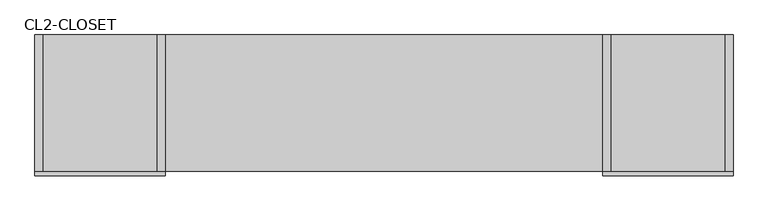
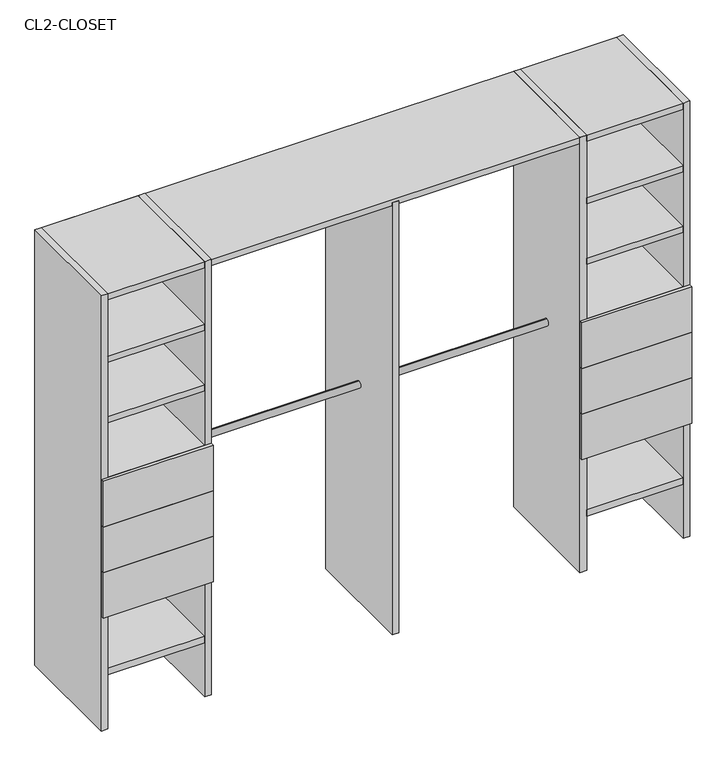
"""IFC4 building model written with IfcOpenShell, lengths in millimetres: furniture geometry, Closet 2estantes-2tubos-centro_sin lateral : CL2-CLOSET."""

from ifc_helpers import new_model, si_unit, point, frame, frame_2d, origin, origin_with_axes, place, context, project, spatial, polyline, circle_curve, trimmed, segment, composite_curve, outline, extrude, source, transform, mapped, element, save


def cl2_closet_fc385fcd(model_context):
    return source(origin(), model_context, "Body", "SweptSolid", [
        extrude(outline(polyline([(-1841.3752666, 100.0), (-1870.0, 100.0), (-1870.0, 600.0), (-1841.3752666, 600.0), (-1841.3752666, 100.0)])), origin_with_axes(), (0.0, 0.0, 1.0), 2000.0),
        extrude(outline(polyline([(-1025.6876333, 100.0), (-1054.3123667, 100.0), (-1054.3123667, 600.0), (-1025.6876333, 600.0), (-1025.6876333, 100.0)])), origin_with_axes(), (0.0, 0.0, 1.0), 1985.0),
        extrude(outline(polyline([(-2290.0, 100.0), (-2318.6247334, 100.0), (-2318.6247334, 600.0), (-2290.0, 600.0), (-2290.0, 100.0)])), origin_with_axes(), (0.0, 0.0, 1.0), 2000.0),
        extrude(outline(polyline([(238.6247334, 100.0), (210.0, 100.0), (210.0, 600.0), (238.6247334, 600.0), (238.6247334, 100.0)])), origin_with_axes(), (0.0, 0.0, 1.0), 2000.0),
        extrude(outline(polyline([(-210.0, 100.0), (-238.6247334, 100.0), (-238.6247334, 600.0), (-210.0, 600.0), (-210.0, 100.0)])), origin_with_axes(), (0.0, 0.0, 1.0), 2000.0),
        extrude(outline(polyline([(-2318.6247334, 85.0), (-2318.6247334, 100.0), (-1841.3752666, 100.0), (-1841.3752666, 85.0), (-2318.6247334, 85.0)])), frame((0.0, 0.0, 946.7910447), z_axis=(0.0, 0.0, 1.0), x_axis=(1.0, 0.0, 0.0)), (0.0, 0.0, 1.0), 209.0831556),
        extrude(outline(polyline([(-2318.6247334, 85.0), (-2318.6247334, 100.0), (-1841.3752666, 100.0), (-1841.3752666, 85.0), (-2318.6247334, 85.0)])), frame((0.0, 0.0, 737.7078891), z_axis=(0.0, 0.0, 1.0), x_axis=(1.0, 0.0, 0.0)), (0.0, 0.0, 1.0), 209.0831556),
        extrude(outline(polyline([(-2318.6247334, 85.0), (-2318.6247334, 100.0), (-1841.3752666, 100.0), (-1841.3752666, 85.0), (-2318.6247334, 85.0)])), frame((0.0, 0.0, 528.6247334), z_axis=(0.0, 0.0, 1.0), x_axis=(1.0, 0.0, 0.0)), (0.0, 0.0, 1.0), 209.0831556),
        extrude(outline(polyline([(-1870.0, 100.0), (-2290.0, 100.0), (-2290.0, 600.0), (-1870.0, 600.0), (-1870.0, 100.0)])), frame((0.0, 0.0, 1127.2494669), z_axis=(0.0, 0.0, 1.0), x_axis=(1.0, 0.0, 0.0)), (0.0, 0.0, 1.0), 28.6247334),
        extrude(outline(polyline([(-1870.0, 100.0), (-2290.0, 100.0), (-2290.0, 600.0), (-1870.0, 600.0), (-1870.0, 100.0)])), frame((0.0, 0.0, 250.0), z_axis=(0.0, 0.0, 1.0), x_axis=(1.0, 0.0, 0.0)), (0.0, 0.0, 1.0), 28.6247334),
        extrude(outline(polyline([(-1870.0, 100.0), (-2290.0, 100.0), (-2290.0, 600.0), (-1870.0, 600.0), (-1870.0, 100.0)])), frame((0.0, 0.0, 528.6247334), z_axis=(0.0, 0.0, 1.0), x_axis=(1.0, 0.0, 0.0)), (0.0, 0.0, 1.0), 28.6247334),
        extrude(outline(polyline([(-1870.0, 100.0), (-2290.0, 100.0), (-2290.0, 600.0), (-1870.0, 600.0), (-1870.0, 100.0)])), frame((0.0, 0.0, 1405.8742003), z_axis=(0.0, 0.0, 1.0), x_axis=(1.0, 0.0, 0.0)), (0.0, 0.0, 1.0), 28.6247334),
        extrude(outline(polyline([(-1870.0, 100.0), (-2290.0, 100.0), (-2290.0, 600.0), (-1870.0, 600.0), (-1870.0, 100.0)])), frame((0.0, 0.0, 1684.4989337), z_axis=(0.0, 0.0, 1.0), x_axis=(1.0, 0.0, 0.0)), (0.0, 0.0, 1.0), 28.6247334),
        extrude(outline(polyline([(-1870.0, 100.0), (-2290.0, 100.0), (-2290.0, 600.0), (-1870.0, 600.0), (-1870.0, 100.0)])), frame((0.0, 0.0, 1971.3752666), z_axis=(0.0, 0.0, 1.0), x_axis=(1.0, 0.0, 0.0)), (0.0, 0.0, 1.0), 28.6247334),
        extrude(outline(polyline([(238.6247334, 100.0), (238.6247334, 85.0), (-238.6247334, 85.0), (-238.6247334, 100.0), (238.6247334, 100.0)])), frame((0.0, 0.0, 946.7910447), z_axis=(0.0, 0.0, 1.0), x_axis=(1.0, 0.0, 0.0)), (0.0, 0.0, 1.0), 209.0831556),
        extrude(outline(polyline([(238.6247334, 100.0), (238.6247334, 85.0), (-238.6247334, 85.0), (-238.6247334, 100.0), (238.6247334, 100.0)])), frame((0.0, 0.0, 737.7078891), z_axis=(0.0, 0.0, 1.0), x_axis=(1.0, 0.0, 0.0)), (0.0, 0.0, 1.0), 209.0831556),
        extrude(outline(polyline([(238.6247334, 100.0), (238.6247334, 85.0), (-238.6247334, 85.0), (-238.6247334, 100.0), (238.6247334, 100.0)])), frame((0.0, 0.0, 528.6247334), z_axis=(0.0, 0.0, 1.0), x_axis=(1.0, 0.0, 0.0)), (0.0, 0.0, 1.0), 209.0831556),
        extrude(outline(polyline([(210.0, 100.0), (-210.0, 100.0), (-210.0, 600.0), (210.0, 600.0), (210.0, 100.0)])), frame((0.0, 0.0, 1127.2494669), z_axis=(0.0, 0.0, 1.0), x_axis=(1.0, 0.0, 0.0)), (0.0, 0.0, 1.0), 28.6247334),
        extrude(outline(composite_curve([segment(trimmed(circle_curve(frame_2d((350.0, 1000.0)), 15.0), [point((350.0, 1015.0))], [point((350.0, 985.0))], False, "CARTESIAN"), True, "CONTINUOUS"), segment(trimmed(circle_curve(frame_2d((350.0, 1000.0)), 15.0), [point((350.0, 985.0))], [point((350.0, 1015.0))], False, "CARTESIAN"), True, "CONTINUOUS")], self_intersect=False)), frame((-1841.3752666, 0.0, 0.0), z_axis=(1.0, 0.0, 0.0), x_axis=(0.0, 1.0, 0.0)), (0.0, 0.0, 1.0), 1602.7505331),
        extrude(outline(composite_curve([segment(trimmed(circle_curve(frame_2d((350.0, 1900.0)), 15.0), [point((350.0, 1915.0))], [point((350.0, 1885.0))], False, "CARTESIAN"), True, "CONTINUOUS"), segment(trimmed(circle_curve(frame_2d((350.0, 1900.0)), 15.0), [point((350.0, 1885.0))], [point((350.0, 1915.0))], False, "CARTESIAN"), True, "CONTINUOUS")], self_intersect=False)), frame((-1841.3752666, 0.0, 0.0), z_axis=(1.0, 0.0, 0.0), x_axis=(0.0, 1.0, 0.0)), (0.0, 0.0, 1.0), 1602.7505331),
        extrude(outline(polyline([(210.0, 100.0), (-210.0, 100.0), (-210.0, 600.0), (210.0, 600.0), (210.0, 100.0)])), frame((0.0, 0.0, 250.0), z_axis=(0.0, 0.0, 1.0), x_axis=(1.0, 0.0, 0.0)), (0.0, 0.0, 1.0), 28.6247334),
        extrude(outline(polyline([(210.0, 100.0), (-210.0, 100.0), (-210.0, 600.0), (210.0, 600.0), (210.0, 100.0)])), frame((0.0, 0.0, 528.6247334), z_axis=(0.0, 0.0, 1.0), x_axis=(1.0, 0.0, 0.0)), (0.0, 0.0, 1.0), 28.6247334),
        extrude(outline(polyline([(210.0, 100.0), (-210.0, 100.0), (-210.0, 600.0), (210.0, 600.0), (210.0, 100.0)])), frame((0.0, 0.0, 1405.8742003), z_axis=(0.0, 0.0, 1.0), x_axis=(1.0, 0.0, 0.0)), (0.0, 0.0, 1.0), 28.6247334),
        extrude(outline(polyline([(210.0, 100.0), (-210.0, 100.0), (-210.0, 600.0), (210.0, 600.0), (210.0, 100.0)])), frame((0.0, 0.0, 1684.4989337), z_axis=(0.0, 0.0, 1.0), x_axis=(1.0, 0.0, 0.0)), (0.0, 0.0, 1.0), 28.6247334),
        extrude(outline(polyline([(-210.0, 100.0), (-2290.0, 100.0), (-2290.0, 600.0), (-210.0, 600.0), (-210.0, 100.0)])), frame((0.0, 0.0, 1971.3752666), z_axis=(0.0, 0.0, 1.0), x_axis=(1.0, 0.0, 0.0)), (0.0, 0.0, 1.0), 28.6247334),
        extrude(outline(polyline([(210.0, 100.0), (-210.0, 100.0), (-210.0, 600.0), (210.0, 600.0), (210.0, 100.0)])), frame((0.0, 0.0, 1971.3752666), z_axis=(0.0, 0.0, 1.0), x_axis=(1.0, 0.0, 0.0)), (0.0, 0.0, 1.0), 28.6247334),
    ])


if __name__ == "__main__":
    model = new_model("IFC4")
    model_context = context("Model", 3, world=origin())
    ifc_project = project(units=[si_unit("LENGTHUNIT", "METRE", prefix="MILLI")], contexts=[model_context])
    site = spatial("IfcSite", under=ifc_project)
    building = spatial("IfcBuilding", under=site)
    placement = place(None, origin())
    cl2_closet_shape = cl2_closet_fc385fcd(model_context)
    element("IfcFurniture", 1, ObjectType="Closet 2estantes-2tubos-centro_sin lateral : CL2-CLOSET", at=placement, inside=building, context=model_context, shape_type="MappedRepresentation", body=[
        mapped(cl2_closet_shape, transform((0.0, 0.0, 0.0), x_axis=(1.0, 0.0, 0.0), y_axis=(0.0, 1.0, 0.0), z_axis=(0.0, 0.0, 1.0))),
    ])
    save(model, "model.ifc")
